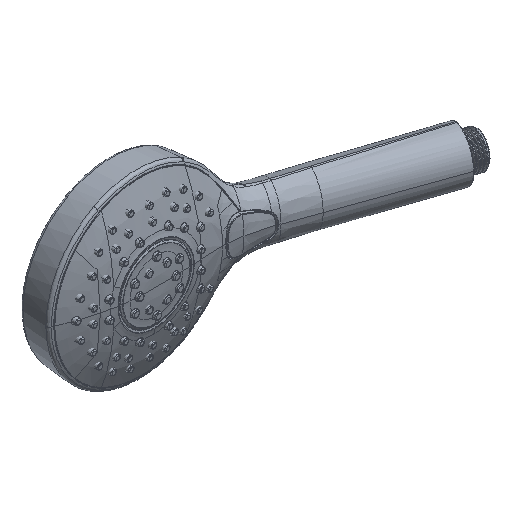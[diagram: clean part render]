
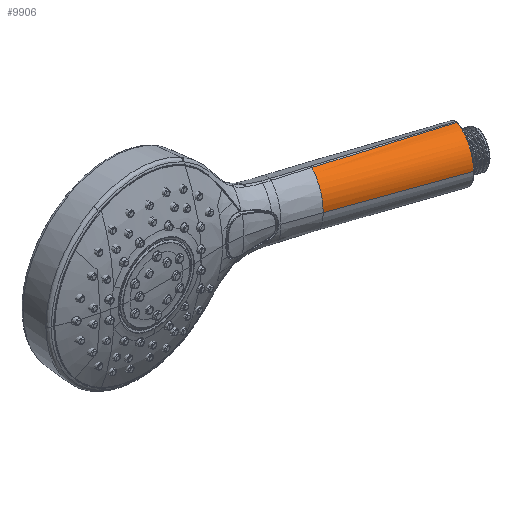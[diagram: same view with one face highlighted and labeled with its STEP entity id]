
A CAD part, isometric view. The second image highlights one B-rep face of the part: STEP entity #9906.
In plain terms, the highlighted free-form (B-spline) face has degree [3, 3] with [6, 4] control points.
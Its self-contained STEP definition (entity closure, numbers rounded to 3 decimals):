
#2406=CARTESIAN_POINT('',(93.053,-11.844,16.041));
#2407=CARTESIAN_POINT('',(92.818,-12.465,15.841));
#2408=CARTESIAN_POINT('',(92.289,-13.864,15.303));
#2409=CARTESIAN_POINT('',(91.519,-15.901,14.197));
#2410=CARTESIAN_POINT('',(90.77,-17.882,12.668));
#2411=CARTESIAN_POINT('',(90.124,-19.591,10.809));
#2412=CARTESIAN_POINT('',(89.595,-20.99,8.621));
#2413=CARTESIAN_POINT('',(89.199,-22.039,6.1));
#2414=CARTESIAN_POINT('',(88.949,-22.699,3.246));
#2415=CARTESIAN_POINT('',(88.89,-22.855,1.119));
#2416=CARTESIAN_POINT('',(88.89,-22.855,
0.));
#2422=CARTESIAN_POINT('',(161.642,-31.092,15.038));
#2423=CARTESIAN_POINT('',(161.523,-31.437,15.047));
#2424=CARTESIAN_POINT('',(161.173,-32.434,15.083));
#2425=CARTESIAN_POINT('',(160.172,-35.297,14.777));
#2426=CARTESIAN_POINT('',(159.51,-37.189,14.283));
#2427=CARTESIAN_POINT('',(158.665,-39.6,13.286));
#2428=CARTESIAN_POINT('',(157.838,-41.963,11.669));
#2429=CARTESIAN_POINT('',(157.055,-44.195,9.073));
#2430=CARTESIAN_POINT('',(156.658,-45.326,6.869));
#2431=CARTESIAN_POINT('',(156.463,-45.882,5.489));
#2432=CARTESIAN_POINT('',(156.261,-46.457,3.52));
#2433=CARTESIAN_POINT('',(156.155,-46.758,1.676));
#2434=CARTESIAN_POINT('',(156.131,-46.825,
0.529));
#2435=CARTESIAN_POINT('',(156.131,-46.825,
0.));
#2437=DIRECTION('',(-0.942,0.336,0.));
#2438=VECTOR('',#2437,71.386);
#2439=CARTESIAN_POINT('',(156.131,-46.825,
0.));
#2440=LINE('',#2439,#2438);
#2441=CARTESIAN_POINT('',(93.053,-11.844,16.041));
#2442=CARTESIAN_POINT('',(94.066,-12.125,16.031));
#2443=CARTESIAN_POINT('',(96.198,-12.717,16.008));
#2444=CARTESIAN_POINT('',(99.549,-13.65,15.969));
#2445=CARTESIAN_POINT('',(103.211,-14.672,15.923));
#2446=CARTESIAN_POINT('',(107.187,-15.785,15.871));
#2447=CARTESIAN_POINT('',(111.502,-16.996,15.812));
#2448=CARTESIAN_POINT('',(116.217,-18.323,15.745));
#2449=CARTESIAN_POINT('',(121.392,-19.783,15.669));
#2450=CARTESIAN_POINT('',(126.984,-21.364,15.585));
#2451=CARTESIAN_POINT('',(132.79,-23.007,15.496));
#2452=CARTESIAN_POINT('',(138.448,-24.608,15.408));
#2453=CARTESIAN_POINT('',(143.667,-26.082,15.326));
#2454=CARTESIAN_POINT('',(148.33,-27.394,15.253));
#2455=CARTESIAN_POINT('',(152.489,-28.56,15.187));
#2456=CARTESIAN_POINT('',(156.236,-29.603,15.126));
#2457=CARTESIAN_POINT('',(159.242,-30.434,15.077));
#2458=CARTESIAN_POINT('',(161.004,-30.918,15.049));
#2459=CARTESIAN_POINT('',(161.642,-31.092,15.038));
#2492=CARTESIAN_POINT('',(93.053,-11.844,16.041));
#3140=VERTEX_POINT('',#2492);
#3233=VERTEX_POINT('',#2422);
#3234=VERTEX_POINT('',#2435);
#3235=CARTESIAN_POINT('',(88.89,-22.855,
0.));
#3236=VERTEX_POINT('',#3235);
#9872=CARTESIAN_POINT('',(87.546,-22.374,
-0.219));
#9873=CARTESIAN_POINT('',(110.856,-30.684,
-0.188));
#9874=CARTESIAN_POINT('',(134.166,-38.994,
-0.156));
#9875=CARTESIAN_POINT('',(157.476,-47.304,
-0.125));
#9876=CARTESIAN_POINT('',(87.546,-22.375,
-0.146));
#9877=CARTESIAN_POINT('',(110.856,-30.685,
-0.125));
#9878=CARTESIAN_POINT('',(134.166,-38.994,
-0.104));
#9879=CARTESIAN_POINT('',(157.476,-47.304,
-0.084));
#9880=CARTESIAN_POINT('',(87.53,-22.415,8.877));
#9881=CARTESIAN_POINT('',(110.842,-30.72,7.601));
#9882=CARTESIAN_POINT('',(134.154,-39.025,6.325));
#9883=CARTESIAN_POINT('',(157.466,-47.329,5.049));
#9884=CARTESIAN_POINT('',(89.406,-17.454,14.198));
#9885=CARTESIAN_POINT('',(112.495,-26.379,14.62));
#9886=CARTESIAN_POINT('',(135.584,-35.305,15.042));
#9887=CARTESIAN_POINT('',(158.673,-44.23,15.464));
#9888=CARTESIAN_POINT('',(91.837,-11.015,16.199));
#9889=CARTESIAN_POINT('',(115.77,-17.839,15.8));
#9890=CARTESIAN_POINT('',(139.703,-24.662,15.401));
#9891=CARTESIAN_POINT('',(163.635,-31.486,15.001));
#9892=CARTESIAN_POINT('',(91.852,-10.975,16.212));
#9893=CARTESIAN_POINT('',(115.79,-17.785,15.807));
#9894=CARTESIAN_POINT('',(139.728,-24.595,15.403));
#9895=CARTESIAN_POINT('',(163.667,-31.405,14.998));
#9896=B_SPLINE_SURFACE_WITH_KNOTS('',3,3,((#9872,#9873,#9874,#9875),(#9876,
#9877,#9878,#9879),(#9880,#9881,#9882,#9883),(#9884,#9885,#9886,#9887),(#9888,
#9889,#9890,#9891),(#9892,#9893,#9894,#9895)),.UNSPECIFIED.,.F.,.F.,.F.,(4,1,1,
4),(4,4),(-0.008,0.,1.,1.006),(-0.01,
1.01),.UNSPECIFIED.);
#9898=ORIENTED_EDGE('',*,*,#9897,.T.);
#9900=ORIENTED_EDGE('',*,*,#9899,.T.);
#9901=ORIENTED_EDGE('',*,*,#9863,.F.);
#9903=ORIENTED_EDGE('',*,*,#9902,.T.);
#9904=EDGE_LOOP('',(#9898,#9900,#9901,#9903));
#9905=FACE_OUTER_BOUND('',#9904,.F.);
#9906=ADVANCED_FACE('',(#9905),#9896,.F.);
#2417=B_SPLINE_CURVE_WITH_KNOTS('',3,(#2406,#2407,#2408,#2409,#2410,#2411,#2412,
#2413,#2414,#2415,#2416),.UNSPECIFIED.,.F.,.F.,(4,1,1,1,1,1,1,1,4),(0.,
0.098,0.227,0.356,0.485,
0.613,0.742,0.871,1.),.UNSPECIFIED.);
#2436=B_SPLINE_CURVE_WITH_KNOTS('',3,(#2422,#2423,#2424,#2425,#2426,#2427,#2428,
#2429,#2430,#2431,#2432,#2433,#2434,#2435),.UNSPECIFIED.,.F.,.F.,(4,1,1,1,1,1,1,
1,1,1,1,4),(0.,0.091,0.182,0.273,
0.364,0.455,0.545,0.636,
0.727,0.818,0.909,1.),.UNSPECIFIED.);
#2460=B_SPLINE_CURVE_WITH_KNOTS('',3,(#2441,#2442,#2443,#2444,#2445,#2446,#2447,
#2448,#2449,#2450,#2451,#2452,#2453,#2454,#2455,#2456,#2457,#2458,#2459),
.UNSPECIFIED.,.F.,.F.,(4,1,1,1,1,1,1,1,1,1,1,1,1,1,1,1,4),(0.,
0.044,0.093,0.146,0.204,
0.267,0.335,0.411,0.493,
0.58,0.665,0.741,0.808,
0.869,0.923,0.972,1.),.UNSPECIFIED.);
#9863=EDGE_CURVE('',#3140,#3236,#2417,.T.);
#9897=EDGE_CURVE('',#3233,#3234,#2436,.T.);
#9899=EDGE_CURVE('',#3234,#3236,#2440,.T.);
#9902=EDGE_CURVE('',#3140,#3233,#2460,.T.);
